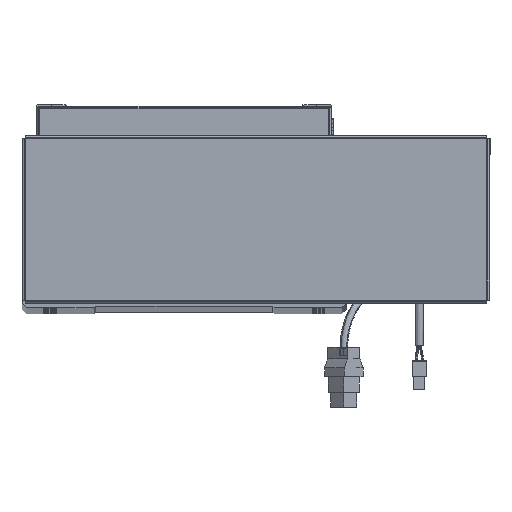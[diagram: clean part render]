
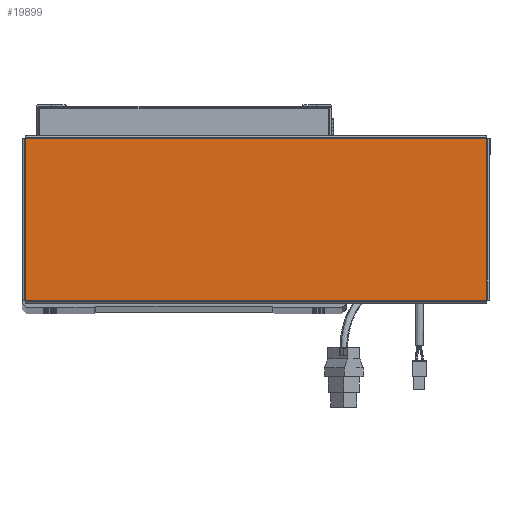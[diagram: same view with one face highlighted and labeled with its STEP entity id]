
A CAD part, top view. The second image highlights one B-rep face of the part: STEP entity #19899.
In plain terms, the highlighted planar face has unit normal (0, 0, 1).
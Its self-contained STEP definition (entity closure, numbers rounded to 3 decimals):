
#393 = CARTESIAN_POINT ( 'NONE',  ( 156.513, 54.763, 0. ) ) ;
#519 = CARTESIAN_POINT ( 'NONE',  ( 156.513, -54.763, 0. ) ) ;
#3270 = CARTESIAN_POINT ( 'NONE',  ( -156.513, 54.793, 0. ) ) ;
#5899 = VERTEX_POINT ( 'NONE', #393 ) ;
#7366 = CARTESIAN_POINT ( 'NONE',  ( 0., 0., 0. ) ) ;
#9370 = DIRECTION ( 'NONE',  ( 0., -1., 0. ) ) ;
#17932 = VECTOR ( 'NONE', #72162, 1000. ) ;
#18426 = DIRECTION ( 'NONE',  ( 1., 0., 0. ) ) ;
#19899 = ADVANCED_FACE ( 'NONE', ( #57129 ), #40204, .T. ) ;
#21209 = DIRECTION ( 'NONE',  ( -1., 0., 0. ) ) ;
#23517 = ORIENTED_EDGE ( 'NONE', *, *, #29158, .T. ) ;
#25476 = VECTOR ( 'NONE', #21209, 1000. ) ;
#26539 = CARTESIAN_POINT ( 'NONE',  ( 156.513, -54.793, 0. ) ) ;
#26596 = LINE ( 'NONE', #68489, #43875 ) ;
#28638 = VECTOR ( 'NONE', #9370, 1000. ) ;
#28923 = CARTESIAN_POINT ( 'NONE',  ( -156.513, 54.763, 0. ) ) ;
#29158 = EDGE_CURVE ( 'NONE', #37253, #51609, #26596, .T. ) ;
#31632 = ORIENTED_EDGE ( 'NONE', *, *, #36846, .T. ) ;
#32740 = AXIS2_PLACEMENT_3D ( 'NONE', #7366, #40683, #35602 ) ;
#32952 = EDGE_CURVE ( 'NONE', #71486, #37253, #72094, .T. ) ;
#35105 = CARTESIAN_POINT ( 'NONE',  ( -156.513, -54.763, 0. ) ) ;
#35602 = DIRECTION ( 'NONE',  ( 1., 0., 0. ) ) ;
#36846 = EDGE_CURVE ( 'NONE', #5899, #71486, #56760, .T. ) ;
#37253 = VERTEX_POINT ( 'NONE', #35105 ) ;
#40204 = PLANE ( 'NONE',  #32740 ) ;
#40683 = DIRECTION ( 'NONE',  ( 0., 0., 1. ) ) ;
#43064 = EDGE_CURVE ( 'NONE', #51609, #5899, #51810, .T. ) ;
#43875 = VECTOR ( 'NONE', #18426, 1000. ) ;
#45383 = EDGE_LOOP ( 'NONE', ( #23517, #48731, #31632, #63953 ) ) ;
#48731 = ORIENTED_EDGE ( 'NONE', *, *, #43064, .T. ) ;
#51609 = VERTEX_POINT ( 'NONE', #519 ) ;
#51810 = LINE ( 'NONE', #26539, #17932 ) ;
#56760 = LINE ( 'NONE', #71018, #25476 ) ;
#57129 = FACE_OUTER_BOUND ( 'NONE', #45383, .T. ) ;
#63953 = ORIENTED_EDGE ( 'NONE', *, *, #32952, .T. ) ;
#68489 = CARTESIAN_POINT ( 'NONE',  ( -156.543, -54.763, 0. ) ) ;
#71018 = CARTESIAN_POINT ( 'NONE',  ( 156.543, 54.763, 0. ) ) ;
#71486 = VERTEX_POINT ( 'NONE', #28923 ) ;
#72094 = LINE ( 'NONE', #3270, #28638 ) ;
#72162 = DIRECTION ( 'NONE',  ( 0., 1., 0. ) ) ;
